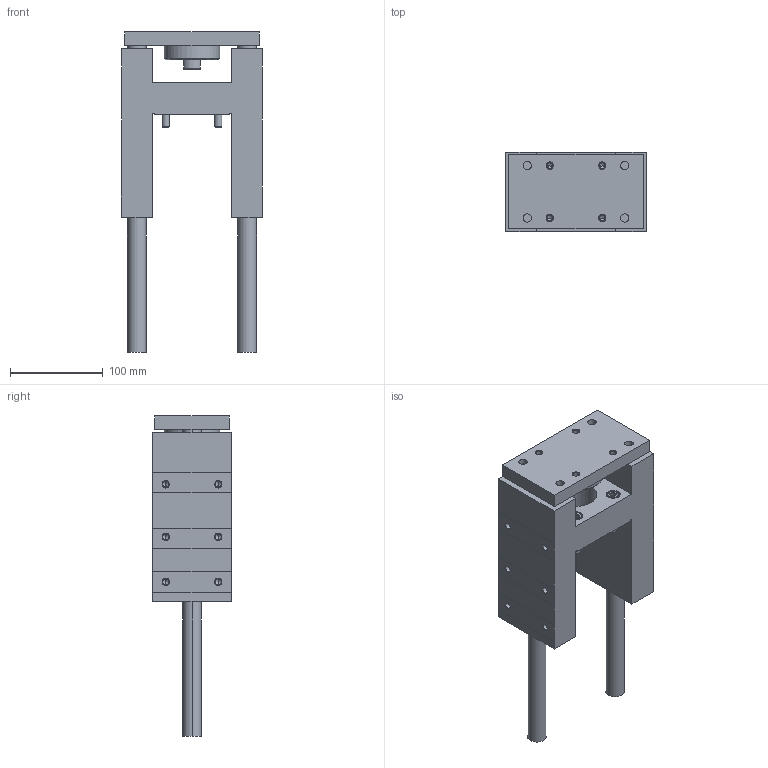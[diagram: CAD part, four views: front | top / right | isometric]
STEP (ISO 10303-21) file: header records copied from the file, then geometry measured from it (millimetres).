
FILE_DESCRIPTION (( 'STEP AP203' ), '1' );
FILE_NAME ('GB63-125.STEP', '2020-04-24T13:21:26', ( '' ), ( '' ), 'SwSTEP 2.0', 'SolidWorks 2019', '' );
FILE_SCHEMA (( 'CONFIG_CONTROL_DESIGN' ));
Length unit declared in the file: millimetre
Products named in the file (1): GB63-125
Bounding box: 152 x 85 x 345 mm (x, y, z)
Volume: 1503417.9 mm3; surface area: 229913.3 mm2
Topology: 6 solids, 6 shells, 363 faces, 814 edges, 462 vertices
Faces by surface type: cone 146, plane 115, cylinder 102
Entity records: 10453 total; most frequent: CARTESIAN_POINT 2284, DIRECTION 1812, ORIENTED_EDGE 1556, EDGE_CURVE 778, AXIS2_PLACEMENT_3D 702, VERTEX_POINT 462, EDGE_LOOP 428, VECTOR 408
